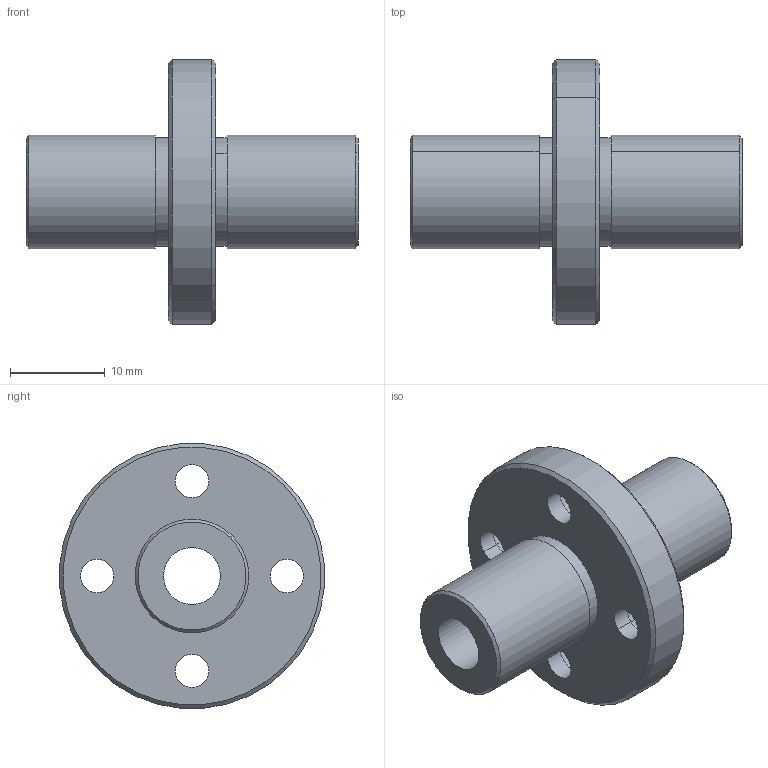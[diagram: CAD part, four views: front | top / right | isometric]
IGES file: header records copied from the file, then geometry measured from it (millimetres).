
Start section: 3D InterOp IGES (Version 21 0 1), Spatial Corp. Copyright (c) 1999-2007.
Global section: file name: NFCD-6VLUU.igs; native system: Spatial Corp.; preprocessor: 3D InterOp GENERIC/IGES 3.0; author: Noname; organization: Noname; date: 20220308.132033; units: millimetre
Bounding box: 35 x 27.89 x 27.89 mm (x, y, z)
Surface area: 3623.5 mm2 (no closed solid volume)
Topology: 0 solids, 0 shells, 46 faces, 208 edges, 208 vertices
Faces by surface type: revolution 36, extrusion 10
